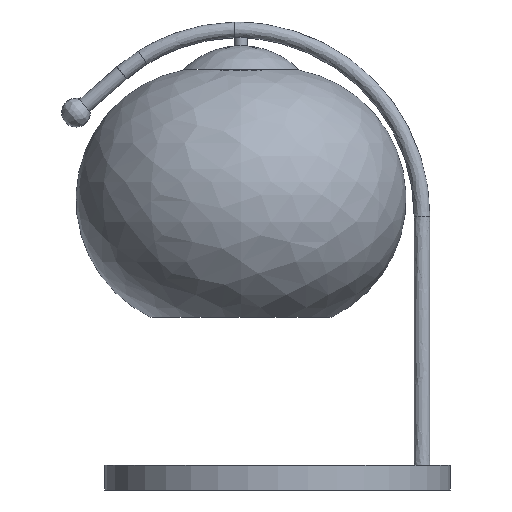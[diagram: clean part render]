
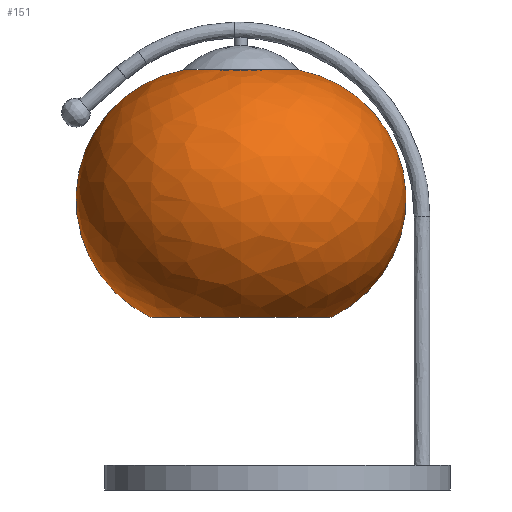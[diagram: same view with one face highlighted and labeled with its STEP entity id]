
A CAD part, front view. The second image highlights one B-rep face of the part: STEP entity #151.
In plain terms, the highlighted free-form (B-spline) face has degree [2, 2] with [5, 5] control points.
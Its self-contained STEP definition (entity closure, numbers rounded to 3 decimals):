
#151=ADVANCED_FACE('',(#299),#1955,.T.);
#299=FACE_OUTER_BOUND('',#447,.T.);
#447=EDGE_LOOP('',(#616,#617,#618,#619));
#616=ORIENTED_EDGE('',*,*,#1173,.T.);
#617=ORIENTED_EDGE('',*,*,#1174,.T.);
#618=ORIENTED_EDGE('',*,*,#1159,.F.);
#619=ORIENTED_EDGE('',*,*,#1171,.F.);
#1159=EDGE_CURVE('',#1768,#1773,#1473,.T.);
#1171=EDGE_CURVE('',#1775,#1768,#1480,.T.);
#1173=EDGE_CURVE('',#1775,#1776,#1482,.T.);
#1174=EDGE_CURVE('',#1776,#1773,#1483,.T.);
#1473=TRIMMED_CURVE($,#1621,(#2824),(#2825),.T.,.CARTESIAN.);
#1480=TRIMMED_CURVE($,#1628,(#2860),(#2861),.T.,.CARTESIAN.);
#1482=TRIMMED_CURVE($,#1630,(#2866),(#2867),.T.,.CARTESIAN.);
#1483=TRIMMED_CURVE($,#1631,(#2869),(#2870),.T.,.CARTESIAN.);
#1621=CIRCLE('',#2162,132.664);
#1628=CIRCLE('',#2169,91.434);
#1630=CIRCLE('',#2171,132.664);
#1631=CIRCLE('',#2172,58.015);
#1768=VERTEX_POINT('',#2808);
#1773=VERTEX_POINT('',#2813);
#1775=VERTEX_POINT('',#2815);
#1776=VERTEX_POINT('',#2816);
#1955=(
BOUNDED_SURFACE()
B_SPLINE_SURFACE(2,2,((#2755,#2756,#2757,#2758,#2759),(#2760,#2761,#2762,
#2763,#2764),(#2765,#2766,#2767,#2768,#2769),(#2770,#2771,#2772,#2773,#2774),
(#2775,#2776,#2777,#2778,#2779)),.UNSPECIFIED.,.F.,.F.,.F.)
B_SPLINE_SURFACE_WITH_KNOTS((3,2,3),(3,2,3),(0.,167.097,334.194),
(524.974,787.462,1049.949),.UNSPECIFIED.)
GEOMETRIC_REPRESENTATION_ITEM()
RATIONAL_B_SPLINE_SURFACE(((1.,0.707,1.,0.707,1.),
(0.808,0.571,0.808,0.571,
0.808),(1.,0.707,1.,0.707,1.),(0.808,
0.571,0.808,0.571,0.808),
(1.,0.707,1.,0.707,1.)))
REPRESENTATION_ITEM('')
SURFACE()
);
#2162=AXIS2_PLACEMENT_3D($,#2823,#2347,#2348);
#2169=AXIS2_PLACEMENT_3D($,#2859,#2361,#2362);
#2171=AXIS2_PLACEMENT_3D($,#2865,#2365,#2366);
#2172=AXIS2_PLACEMENT_3D($,#2868,#2367,#2368);
#2347=DIRECTION('',(0.,1.,0.));
#2348=DIRECTION('',(-0.43,0.,-0.903));
#2361=DIRECTION('',(0.,0.,-1.));
#2362=DIRECTION('',(1.,0.,0.));
#2365=DIRECTION('',(0.,-1.,0.));
#2366=DIRECTION('',(0.43,0.,-0.903));
#2367=DIRECTION('',(0.,0.,-1.));
#2368=DIRECTION('',(1.,0.,0.));
#2755=CARTESIAN_POINT('',(2038.918,731.379,-7.64));
#2756=CARTESIAN_POINT('',(2038.918,639.946,-7.64));
#2757=CARTESIAN_POINT('',(1947.485,639.946,-7.64));
#2758=CARTESIAN_POINT('',(1856.051,639.946,-7.64));
#2759=CARTESIAN_POINT('',(1856.051,731.379,-7.64));
#2760=CARTESIAN_POINT('',(2126.228,731.379,33.885));
#2761=CARTESIAN_POINT('',(2126.228,552.636,33.885));
#2762=CARTESIAN_POINT('',(1947.485,552.636,33.885));
#2763=CARTESIAN_POINT('',(1768.741,552.636,33.885));
#2764=CARTESIAN_POINT('',(1768.741,731.379,33.885));
#2765=CARTESIAN_POINT('',(2113.436,731.379,129.717));
#2766=CARTESIAN_POINT('',(2113.436,565.428,129.717));
#2767=CARTESIAN_POINT('',(1947.485,565.428,129.717));
#2768=CARTESIAN_POINT('',(1781.533,565.428,129.717));
#2769=CARTESIAN_POINT('',(1781.533,731.379,129.717));
#2770=CARTESIAN_POINT('',(2100.644,731.379,225.548));
#2771=CARTESIAN_POINT('',(2100.644,578.22,225.548));
#2772=CARTESIAN_POINT('',(1947.485,578.22,225.548));
#2773=CARTESIAN_POINT('',(1794.325,578.22,225.548));
#2774=CARTESIAN_POINT('',(1794.325,731.379,225.548));
#2775=CARTESIAN_POINT('',(2005.499,731.379,242.719));
#2776=CARTESIAN_POINT('',(2005.499,673.365,242.719));
#2777=CARTESIAN_POINT('',(1947.485,673.365,242.719));
#2778=CARTESIAN_POINT('',(1889.47,673.365,242.719));
#2779=CARTESIAN_POINT('',(1889.47,731.379,242.719));
#2808=CARTESIAN_POINT('',(1856.051,731.379,-7.64));
#2813=CARTESIAN_POINT('',(1889.47,731.379,242.719));
#2815=CARTESIAN_POINT('',(2038.918,731.379,-7.64));
#2816=CARTESIAN_POINT('',(2005.499,731.379,242.719));
#2823=CARTESIAN_POINT('',(1913.031,731.379,112.164));
#2824=CARTESIAN_POINT('',(1856.051,731.379,-7.64));
#2825=CARTESIAN_POINT('',(1889.47,731.379,242.719));
#2859=CARTESIAN_POINT('',(1947.485,731.379,-7.64));
#2860=CARTESIAN_POINT('',(2038.918,731.379,-7.64));
#2861=CARTESIAN_POINT('',(1856.051,731.379,-7.64));
#2865=CARTESIAN_POINT('',(1981.939,731.379,112.164));
#2866=CARTESIAN_POINT('',(2038.918,731.379,-7.64));
#2867=CARTESIAN_POINT('',(2005.499,731.379,242.719));
#2868=CARTESIAN_POINT('',(1947.485,731.379,242.719));
#2869=CARTESIAN_POINT('',(2005.499,731.379,242.719));
#2870=CARTESIAN_POINT('',(1889.47,731.379,242.719));
